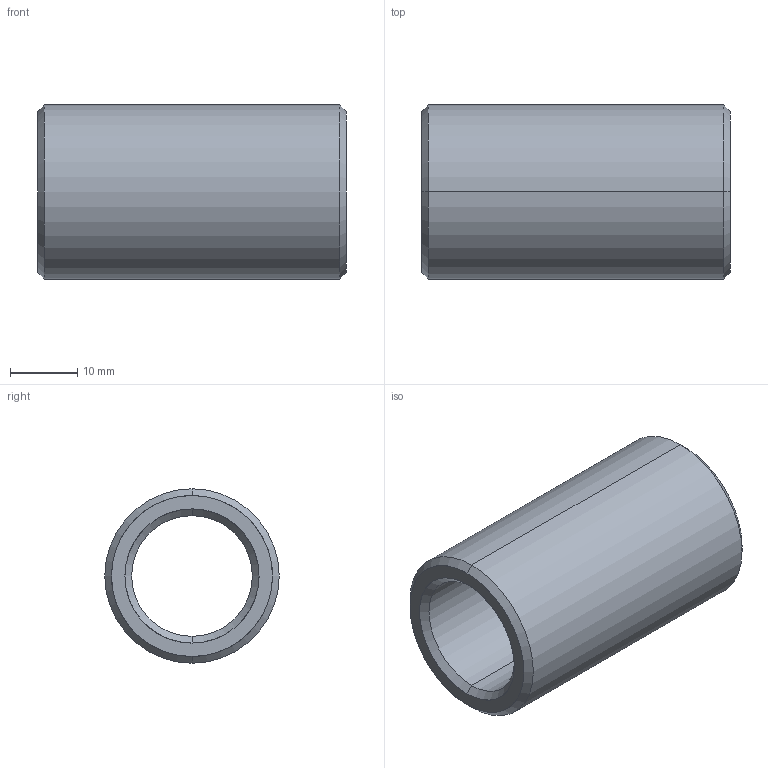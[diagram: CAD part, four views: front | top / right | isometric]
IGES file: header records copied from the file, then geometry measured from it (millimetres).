
Start section: START RECORD GO HERE.
Global section: file name: 352-18X46.igs; native system: DASSAULT SYSTEMES CATIA V5 R20 - www.3ds.com; preprocessor: CATIA Version 5 Release 20 ; author: Utente; organization: NB04-ASUS; date: 20210412.174033; units: millimetre
Bounding box: 46 x 26 x 26 mm (x, y, z)
Surface area: 6757.6 mm2 (no closed solid volume)
Topology: 0 solids, 0 shells, 14 faces, 88 edges, 88 vertices
Faces by surface type: revolution 12, plane 2
